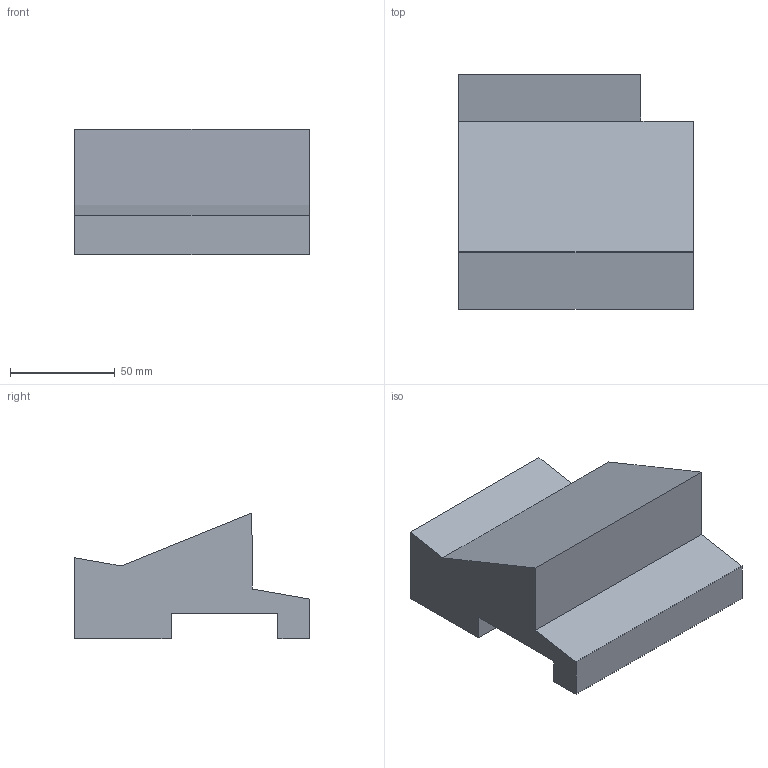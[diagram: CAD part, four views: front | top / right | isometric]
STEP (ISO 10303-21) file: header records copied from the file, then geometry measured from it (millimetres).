
FILE_DESCRIPTION(/* description */ (''),/* implementation_level */ '2;1');
FILE_NAME(/* name */ '730408R1004 v1.step',/* time_stamp */ '2023-04-15T10:38:40+09:00',/* author */ (''),/* organization */ (''),/* preprocessor_version */ 'ST-DEVELOPER v19.2',/* originating_system */ 'Autodesk Translation Framework v12.4.0.73',/* authorisation */ '');
FILE_SCHEMA (('AUTOMOTIVE_DESIGN { 1 0 10303 214 3 1 1 }'));
Length unit declared in the file: millimetre
Products named in the file (1): 730408R1004
Bounding box: 112 x 112 x 60.06 mm (x, y, z)
Volume: 394029.5 mm3; surface area: 44932.8 mm2
Topology: 1 solids, 1 shells, 15 faces, 38 edges, 25 vertices
Faces by surface type: plane 15
Entity records: 477 total; most frequent: CARTESIAN_POINT 79, ORIENTED_EDGE 76, DIRECTION 70, LINE 38, VECTOR 38, EDGE_CURVE 38, VERTEX_POINT 25, AXIS2_PLACEMENT_3D 16
